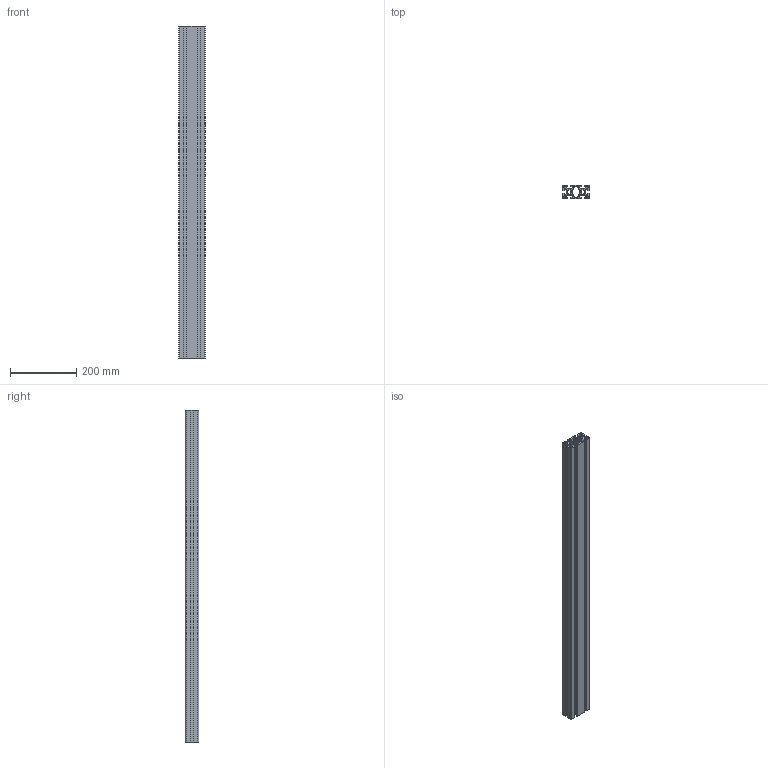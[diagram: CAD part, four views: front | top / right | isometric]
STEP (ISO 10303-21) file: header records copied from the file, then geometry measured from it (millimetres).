
FILE_DESCRIPTION(/* description */ (''),/* implementation_level */ '2;1');
FILE_NAME(/* name */ 'C:\Users\Stefan.Nesic\Desktop\STEP PROFILI\PK4080.stp',/* time_stamp */ '2023-05-26T08:31:14+02:00',/* author */ ('stefan.nesic'),/* organization */ (''),/* preprocessor_version */ 'ST-DEVELOPER v18.1',/* originating_system */ 'Autodesk Inventor 2021',/* authorisation */ '');
FILE_SCHEMA (('CONFIG_CONTROL_DESIGN'));
Length unit declared in the file: millimetre
Products named in the file (1): PG4080_GD1
Bounding box: 80 x 40 x 1000 mm (x, y, z)
Volume: 1325451.9 mm3; surface area: 725794 mm2
Topology: 1 solids, 1 shells, 190 faces, 564 edges, 376 vertices
Faces by surface type: plane 114, cylinder 76
Full cylindrical faces by diameter (mm): 5 x4
Entity records: 6449 total; most frequent: CARTESIAN_POINT 1131, ORIENTED_EDGE 1128, DIRECTION 1098, EDGE_CURVE 564, LINE 412, VECTOR 412, VERTEX_POINT 376, AXIS2_PLACEMENT_3D 343
